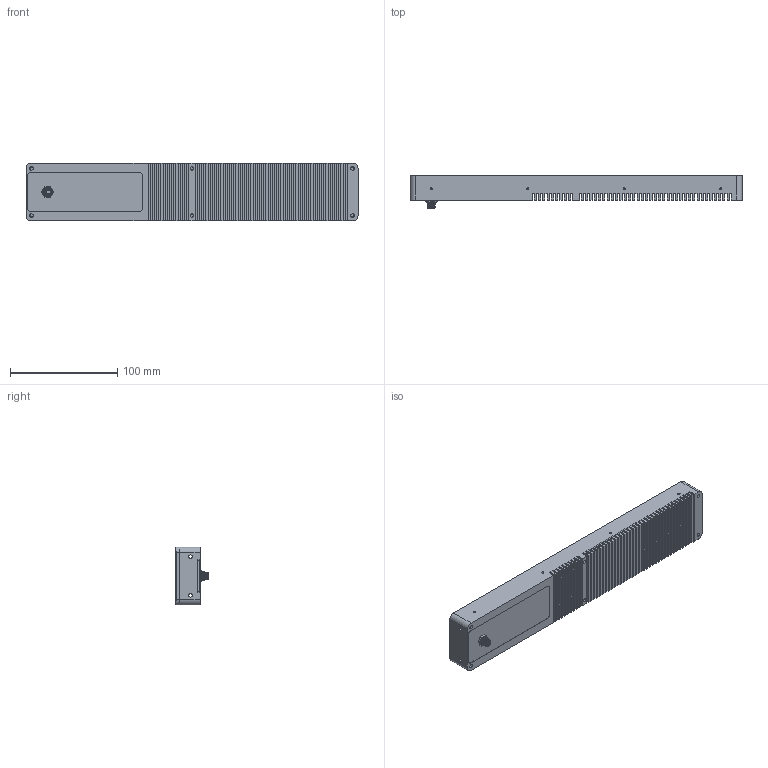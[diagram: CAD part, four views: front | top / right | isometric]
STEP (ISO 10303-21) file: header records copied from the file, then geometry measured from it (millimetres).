
FILE_DESCRIPTION (( 'STEP AP214' ), '1' );
FILE_NAME ('01775.00 Basisbaugruppe WBL-0430Step17082020.STEP', '2020-08-17T12:00:58', ( '' ), ( '' ), 'SwSTEP 2.0', 'SolidWorks 2013', '' );
FILE_SCHEMA (( 'AUTOMOTIVE_DESIGN' ));
Length unit declared in the file: millimetre
Products named in the file (1): 01775.00 Basisbaugruppe WBL-0430Step17082020
Bounding box: 310 x 30.8 x 54 mm (x, y, z)
Surface area: 85497.1 mm2 (no closed solid volume)
Topology: 0 solids, 10 shells, 268 faces, 803 edges, 546 vertices
Faces by surface type: plane 217, cylinder 45, cone 4, bspline 2
Full cylindrical faces by diameter (mm): 1 x4, 2.05 x8, 3.3 x10, 5.8 x1, 6.5 x2, 6.9 x1, 8 x1
Entity records: 12390 total; most frequent: CARTESIAN_POINT 2319, ORIENTED_EDGE 1435, DIRECTION 1390, EDGE_CURVE 762, VECTOR 638, LINE 638, VERTEX_POINT 538, AXIS2_PLACEMENT_3D 376
